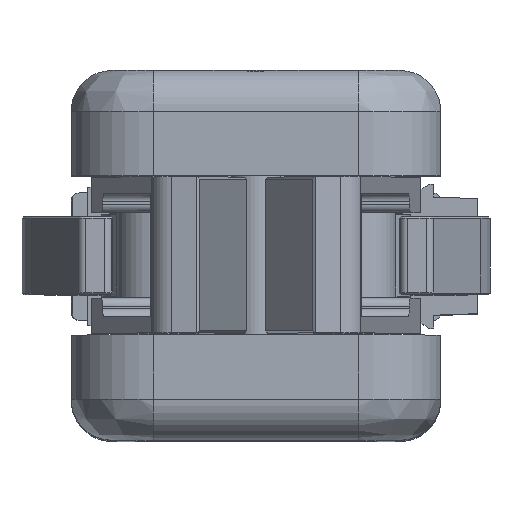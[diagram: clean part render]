
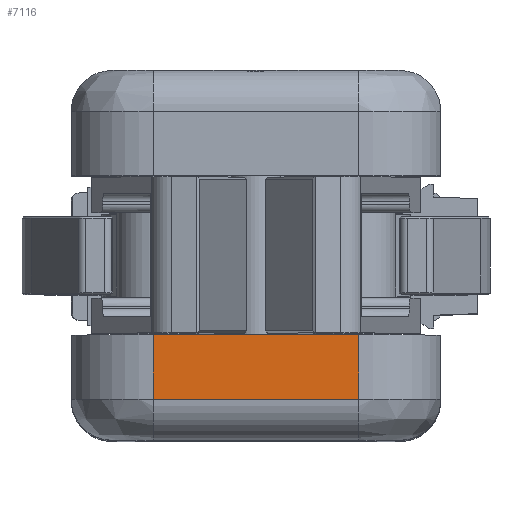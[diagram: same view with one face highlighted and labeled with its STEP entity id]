
A CAD part, top view. The second image highlights one B-rep face of the part: STEP entity #7116.
In plain terms, the highlighted planar face has unit normal (0, 0, 1).
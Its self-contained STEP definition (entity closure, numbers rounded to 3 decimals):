
#274=FACE_OUTER_BOUND('',#8898,.T.);
#852=LINE('',#19667,#1625);
#853=LINE('',#19670,#1626);
#854=LINE('',#19672,#1627);
#855=LINE('',#19674,#1628);
#1625=VECTOR('',#16381,1.);
#1626=VECTOR('',#16382,1.);
#1627=VECTOR('',#16383,1.);
#1628=VECTOR('',#16384,1.);
#6698=PLANE('',#14680);
#7116=ADVANCED_FACE('',(#274),#6698,.F.);
#8898=EDGE_LOOP('',(#10238,#10239,#10240,#10241));
#10238=ORIENTED_EDGE('',*,*,#13495,.T.);
#10239=ORIENTED_EDGE('',*,*,#13496,.T.);
#10240=ORIENTED_EDGE('',*,*,#13497,.T.);
#10241=ORIENTED_EDGE('',*,*,#13498,.T.);
#12517=VERTEX_POINT('',#19668);
#12518=VERTEX_POINT('',#19669);
#12519=VERTEX_POINT('',#19671);
#12520=VERTEX_POINT('',#19673);
#13495=EDGE_CURVE('',#12517,#12518,#852,.T.);
#13496=EDGE_CURVE('',#12518,#12519,#853,.T.);
#13497=EDGE_CURVE('',#12519,#12520,#854,.T.);
#13498=EDGE_CURVE('',#12520,#12517,#855,.T.);
#14680=AXIS2_PLACEMENT_3D('',#19675,#16385,#16386);
#16381=DIRECTION('',(1.,0.,0.));
#16382=DIRECTION('',(0.,1.,0.));
#16383=DIRECTION('',(-1.,0.,0.));
#16384=DIRECTION('',(0.,-1.,0.));
#16385=DIRECTION('',(0.,0.,-1.));
#16386=DIRECTION('',(1.,0.,0.));
#19667=CARTESIAN_POINT('',(22.5,-17.5,203.));
#19668=CARTESIAN_POINT('',(-12.5,-17.5,203.));
#19669=CARTESIAN_POINT('',(12.5,-17.5,203.));
#19670=CARTESIAN_POINT('',(12.5,-22.5,203.));
#19671=CARTESIAN_POINT('',(12.5,-9.7,203.));
#19672=CARTESIAN_POINT('',(-22.5,-9.7,203.));
#19673=CARTESIAN_POINT('',(-12.5,-9.7,203.));
#19674=CARTESIAN_POINT('',(-12.5,-22.5,203.));
#19675=CARTESIAN_POINT('',(-22.5,-22.5,203.));
